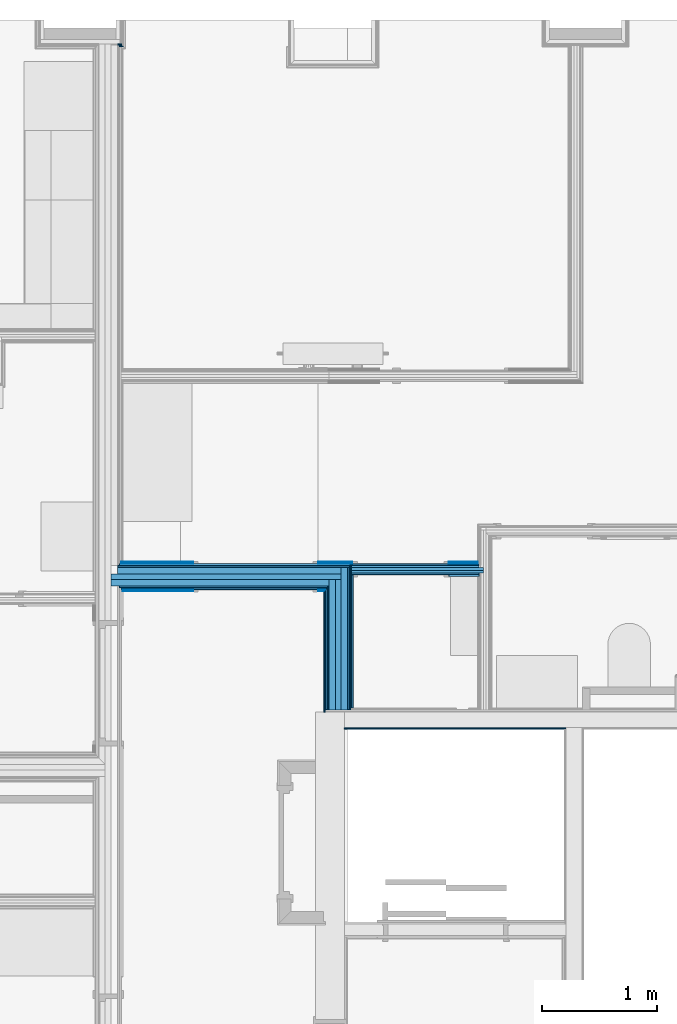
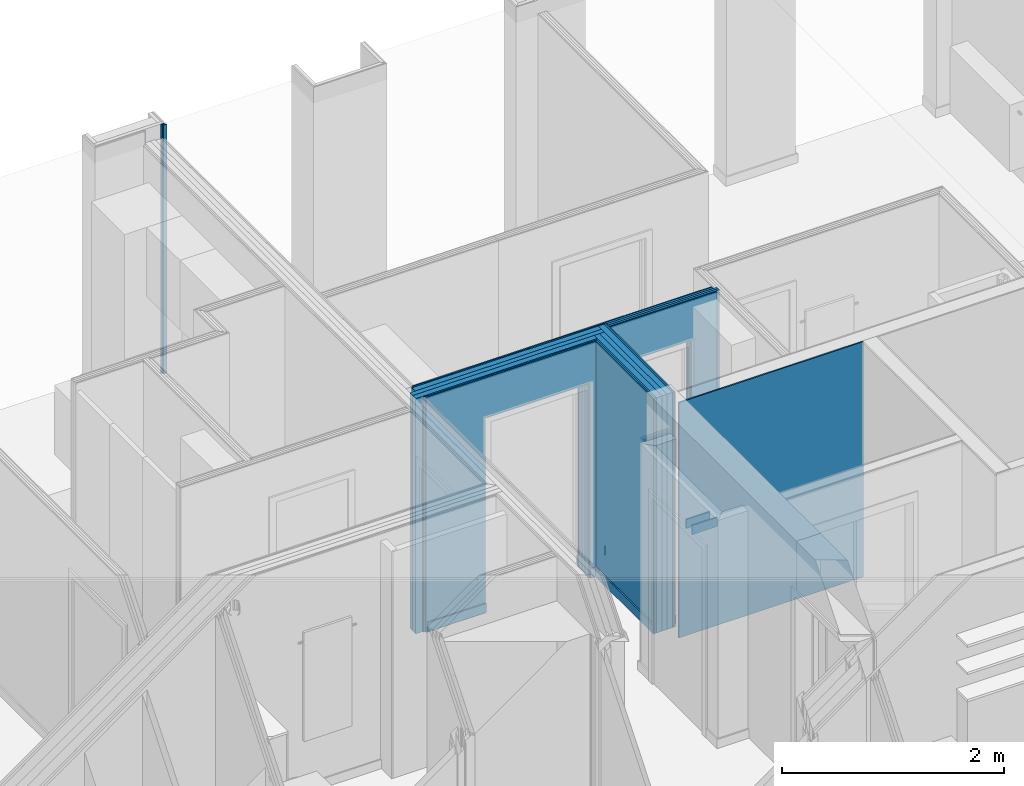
# One storey, part 16 of 82: 28 building element parts, 3 openings, 5 elements without a shape of their own.
"""IFC2X3 building model written with IfcOpenShell, lengths in metres."""

from ifc_helpers import new_model, entity, si_unit, converted_unit, derived_unit, money_unit, direction, frame, frame_2d, origin_with_axes, place, context, subcontext, project, spatial, polyline, rectangle, outline, extrude, material, type_object, element, aggregate, save


model = new_model("IFC2X3")

# Units and contexts
model_context = context("Model", 3, precision=1e-05, world=origin_with_axes(), true_north=direction((0.0, 1.0)))
body_context = subcontext(model_context, "Body", "Model", "MODEL_VIEW", scale=1.0)
ifc_project = project(units=[si_unit("LENGTHUNIT", "METRE"), si_unit("AREAUNIT", "SQUARE_METRE"), si_unit("VOLUMEUNIT", "CUBIC_METRE"), si_unit("ABSORBEDDOSEUNIT", "GRAY"), si_unit("AMOUNTOFSUBSTANCEUNIT", "MOLE"), si_unit("DOSEEQUIVALENTUNIT", "SIEVERT"), si_unit("ELECTRICCAPACITANCEUNIT", "FARAD"), si_unit("ELECTRICCHARGEUNIT", "COULOMB"), si_unit("ELECTRICCONDUCTANCEUNIT", "SIEMENS"), si_unit("ELECTRICCURRENTUNIT", "AMPERE"), si_unit("ELECTRICRESISTANCEUNIT", "OHM"), si_unit("ELECTRICVOLTAGEUNIT", "VOLT"), si_unit("ENERGYUNIT", "JOULE"), si_unit("FORCEUNIT", "NEWTON"), si_unit("FREQUENCYUNIT", "HERTZ"), si_unit("ILLUMINANCEUNIT", "LUX"), si_unit("INDUCTANCEUNIT", "HENRY"), si_unit("LUMINOUSFLUXUNIT", "LUMEN"), si_unit("LUMINOUSINTENSITYUNIT", "CANDELA"), si_unit("MAGNETICFLUXDENSITYUNIT", "TESLA"), si_unit("MAGNETICFLUXUNIT", "WEBER"), si_unit("MASSUNIT", "GRAM"), converted_unit("PLANEANGLEUNIT", "degree", entity("IfcReal", 0.0174532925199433), si_unit("PLANEANGLEUNIT", "RADIAN"), dimensions=[0, 0, 0, 0, 0, 0, 0]), si_unit("POWERUNIT", "WATT"), si_unit("PRESSUREUNIT", "PASCAL"), si_unit("RADIOACTIVITYUNIT", "BECQUEREL"), si_unit("SOLIDANGLEUNIT", "STERADIAN"), si_unit("THERMODYNAMICTEMPERATUREUNIT", "KELVIN"), si_unit("TIMEUNIT", "SECOND"), derived_unit("ACCELERATIONUNIT", [(si_unit("LENGTHUNIT", "METRE"), 1), (si_unit("TIMEUNIT", "SECOND"), -2)]), derived_unit("ANGULARVELOCITYUNIT", [(converted_unit("PLANEANGLEUNIT", "degree", entity("IfcReal", 0.0174532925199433), si_unit("PLANEANGLEUNIT", "RADIAN"), dimensions=[0, 0, 0, 0, 0, 0, 0]), 1), (si_unit("TIMEUNIT", "SECOND"), -1)]), derived_unit("CURVATUREUNIT", [(converted_unit("PLANEANGLEUNIT", "degree", entity("IfcReal", 0.0174532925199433), si_unit("PLANEANGLEUNIT", "RADIAN"), dimensions=[0, 0, 0, 0, 0, 0, 0]), 1), (si_unit("LENGTHUNIT", "METRE"), -1)]), derived_unit("DYNAMICVISCOSITYUNIT", [(si_unit("PRESSUREUNIT", "PASCAL"), 1), (si_unit("TIMEUNIT", "SECOND"), 1)]), derived_unit("HEATFLUXDENSITYUNIT", [(si_unit("POWERUNIT", "WATT"), 1), (si_unit("LENGTHUNIT", "METRE"), -2)]), derived_unit("HEATINGVALUEUNIT", [(si_unit("ENERGYUNIT", "JOULE"), 1), (si_unit("MASSUNIT", "GRAM"), -1)]), derived_unit("INTEGERCOUNTRATEUNIT", [(si_unit("TIMEUNIT", "SECOND"), -1)]), derived_unit("IONCONCENTRATIONUNIT", [(si_unit("MASSUNIT", "GRAM"), 1), (si_unit("VOLUMEUNIT", "CUBIC_METRE"), -1)]), derived_unit("ISOTHERMALMOISTURECAPACITYUNIT", [(si_unit("VOLUMEUNIT", "CUBIC_METRE"), 1), (si_unit("MASSUNIT", "GRAM"), -1)]), derived_unit("KINEMATICVISCOSITYUNIT", [(si_unit("AREAUNIT", "SQUARE_METRE"), 1), (si_unit("TIMEUNIT", "SECOND"), -1)]), derived_unit("LINEARFORCEUNIT", [(si_unit("FORCEUNIT", "NEWTON"), 1), (si_unit("LENGTHUNIT", "METRE"), -1)]), derived_unit("LINEARMOMENTUNIT", [(si_unit("FORCEUNIT", "NEWTON"), 1), (si_unit("LENGTHUNIT", "METRE"), -1)]), derived_unit("LINEARSTIFFNESSUNIT", [(si_unit("FORCEUNIT", "NEWTON"), 1), (si_unit("LENGTHUNIT", "METRE"), -1)]), derived_unit("LINEARVELOCITYUNIT", [(si_unit("LENGTHUNIT", "METRE"), 1), (si_unit("TIMEUNIT", "SECOND"), -1)]), derived_unit("LUMINOUSINTENSITYDISTRIBUTIONUNIT", [(si_unit("LUMINOUSINTENSITYUNIT", "CANDELA"), 1), (si_unit("LUMINOUSFLUXUNIT", "LUMEN"), -1)]), derived_unit("MASSDENSITYUNIT", [(si_unit("MASSUNIT", "GRAM"), 1), (si_unit("VOLUMEUNIT", "CUBIC_METRE"), -1)]), derived_unit("MASSFLOWRATEUNIT", [(si_unit("MASSUNIT", "GRAM"), 1), (si_unit("TIMEUNIT", "SECOND"), -1)]), derived_unit("MASSPERLENGTHUNIT", [(si_unit("MASSUNIT", "GRAM"), 1), (si_unit("LENGTHUNIT", "METRE"), -1)]), derived_unit("MODULUSOFELASTICITYUNIT", [(si_unit("FORCEUNIT", "NEWTON"), 1), (si_unit("AREAUNIT", "SQUARE_METRE"), -1)]), derived_unit("MODULUSOFLINEARSUBGRADEREACTIONUNIT", [(si_unit("FORCEUNIT", "NEWTON"), 1), (si_unit("LENGTHUNIT", "METRE"), -2)]), derived_unit("MODULUSOFROTATIONALSUBGRADEREACTIONUNIT", [(si_unit("FORCEUNIT", "NEWTON"), 1), (si_unit("LENGTHUNIT", "METRE"), 1)]), derived_unit("MODULUSOFSUBGRADEREACTIONUNIT", [(si_unit("FORCEUNIT", "NEWTON"), 1), (si_unit("VOLUMEUNIT", "CUBIC_METRE"), -1)]), derived_unit("MOISTUREDIFFUSIVITYUNIT", [(si_unit("VOLUMEUNIT", "CUBIC_METRE"), 1), (si_unit("TIMEUNIT", "SECOND"), -1)]), derived_unit("MOLECULARWEIGHTUNIT", [(si_unit("MASSUNIT", "GRAM"), 1), (si_unit("AMOUNTOFSUBSTANCEUNIT", "MOLE"), -1)]), derived_unit("PLANARFORCEUNIT", [(si_unit("FORCEUNIT", "NEWTON"), 1), (si_unit("LENGTHUNIT", "METRE"), -2)]), derived_unit("ROTATIONALFREQUENCYUNIT", [(si_unit("TIMEUNIT", "SECOND"), -1)]), derived_unit("ROTATIONALMASSUNIT", [(si_unit("MASSUNIT", "GRAM"), 1), (si_unit("LENGTHUNIT", "METRE"), 2)]), derived_unit("ROTATIONALSTIFFNESSUNIT", [(si_unit("FORCEUNIT", "NEWTON"), 1), (si_unit("LENGTHUNIT", "METRE"), 1), (converted_unit("PLANEANGLEUNIT", "degree", entity("IfcReal", 0.0174532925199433), si_unit("PLANEANGLEUNIT", "RADIAN"), dimensions=[0, 0, 0, 0, 0, 0, 0]), -1)]), derived_unit("SECTIONAREAINTEGRALUNIT", [(si_unit("LENGTHUNIT", "METRE"), 5)]), derived_unit("SECTIONMODULUSUNIT", [(si_unit("LENGTHUNIT", "METRE"), 3)]), derived_unit("SHEARMODULUSUNIT", [(si_unit("FORCEUNIT", "NEWTON"), 1), (si_unit("AREAUNIT", "SQUARE_METRE"), -1)]), derived_unit("SOUNDPOWERUNIT", [(si_unit("ENERGYUNIT", "JOULE"), 1), (si_unit("TIMEUNIT", "SECOND"), -1)]), derived_unit("SPECIFICHEATCAPACITYUNIT", [(si_unit("FORCEUNIT", "NEWTON"), 1), (si_unit("MASSUNIT", "GRAM"), -1), (si_unit("THERMODYNAMICTEMPERATUREUNIT", "KELVIN"), -1)]), derived_unit("TEMPERATUREGRADIENTUNIT", [(si_unit("THERMODYNAMICTEMPERATUREUNIT", "KELVIN"), 1), (si_unit("LENGTHUNIT", "METRE"), -1)]), derived_unit("THERMALADMITTANCEUNIT", [(si_unit("POWERUNIT", "WATT"), 1), (si_unit("AREAUNIT", "SQUARE_METRE"), -1), (si_unit("THERMODYNAMICTEMPERATUREUNIT", "KELVIN"), -1)]), derived_unit("THERMALCONDUCTANCEUNIT", [(si_unit("POWERUNIT", "WATT"), 1), (si_unit("LENGTHUNIT", "METRE"), -1), (si_unit("THERMODYNAMICTEMPERATUREUNIT", "KELVIN"), -1)]), derived_unit("THERMALEXPANSIONCOEFFICIENTUNIT", [(si_unit("THERMODYNAMICTEMPERATUREUNIT", "KELVIN"), -1)]), derived_unit("THERMALRESISTANCEUNIT", [(si_unit("AREAUNIT", "SQUARE_METRE"), 1), (si_unit("POWERUNIT", "WATT"), -1)]), derived_unit("THERMALTRANSMITTANCEUNIT", [(si_unit("POWERUNIT", "WATT"), 1), (si_unit("AREAUNIT", "SQUARE_METRE"), -1), (si_unit("THERMODYNAMICTEMPERATUREUNIT", "KELVIN"), -1)]), derived_unit("TORQUEUNIT", [(si_unit("FORCEUNIT", "NEWTON"), 1), (si_unit("LENGTHUNIT", "METRE"), 1)]), derived_unit("VAPORPERMEABILITYUNIT", [(si_unit("MASSUNIT", "GRAM"), 1), (si_unit("TIMEUNIT", "SECOND"), -1)]), derived_unit("VOLUMETRICFLOWRATEUNIT", [(si_unit("VOLUMEUNIT", "CUBIC_METRE"), 1), (si_unit("TIMEUNIT", "SECOND"), -1)]), derived_unit("WARPINGCONSTANTUNIT", [(si_unit("LENGTHUNIT", "METRE"), 6)]), derived_unit("WARPINGMOMENTUNIT", [(si_unit("FORCEUNIT", "NEWTON"), 1), (si_unit("LENGTHUNIT", "METRE"), 2)]), money_unit("GBP")], contexts=[model_context])

# Site, building, storey
site_placement = place(None, origin_with_axes())
site = spatial("IfcSite", under=ifc_project, at=site_placement, Name="Site", CompositionType="ELEMENT")
building_placement = place(site_placement, origin_with_axes())
building = spatial("IfcBuilding", under=site, at=building_placement, Name="Building01", CompositionType="ELEMENT")
storey_placement = place(building_placement, frame((0.0, 0.0, 12.13), z_axis=(0.0, 0.0, 1.0), x_axis=(1.0, 0.0, 0.0)))
storey = spatial("IfcBuildingStorey", under=building, at=storey_placement, Name="3F", CompositionType="ELEMENT", Elevation=12.13)

# Wall, openings, building element parts
wall_type_1 = type_object("IfcWallType", Name="SHE_A-Walls_Type01c_Partywall_225mm_twin_tall", PredefinedType="NOTDEFINED")
wall_1_placement = place(storey_placement, frame((9.197, 9.949704, 0.0), z_axis=(0.0, 0.0, 1.0), x_axis=(-1.0, 0.0, 0.0)))
wall_1 = element("IfcWall", 1, at=wall_1_placement, inside=storey, type_object=wall_type_1, Name="1C", ObjectType="SHE_A-Walls_Type01c_Partywall_225mm_twin_tall")
opening_1_placement = place(wall_1_placement, frame((-0.931871, -0.153, 0.0), z_axis=(0.0, 0.0, 1.0), x_axis=(1.0, 0.0, 0.0)))
element("IfcOpeningElement", 2, at=opening_1_placement, cuts=wall_1, Name="Opening", ObjectType="Recess", context=body_context, shape_type="SweptSolid", body=[
    extrude(rectangle(XDim=2.142, YDim=0.834, at=frame_2d((-0.417, 1.071), x_axis=(0.0, -1.0))), frame((0.0, 0.0, 0.0), z_axis=(0.0, 1.0, 0.0), x_axis=(-1.0, 0.0, 0.0)), (0.0, 0.0, 1.0), 0.015),
])
opening_2_placement = place(wall_1_placement, frame((0.200331, -0.153, 0.0), z_axis=(0.0, 0.0, 1.0), x_axis=(1.0, 0.0, 0.0)))
element("IfcOpeningElement", 3, at=opening_2_placement, cuts=wall_1, Name="Opening", ObjectType="Opening", context=body_context, shape_type="SweptSolid", body=[
    extrude(rectangle(XDim=1.084, YDim=2.142, at=frame_2d((-0.542, 1.071), x_axis=(-1.0, 0.0))), frame((0.0, 0.0, 0.0), z_axis=(0.0, 1.0, 0.0), x_axis=(-1.0, 0.0, 0.0)), (0.0, 0.0, 1.0), 0.255),
])
ifc_material_1 = material(Name="A_BSUK_Walls_Timber")
placement_1 = place(wall_1_placement, origin_with_axes())
building_element_part_1 = element("IfcBuildingElementPart", 4, at=placement_1, material=ifc_material_1, Name="1", context=body_context, shape_type="SweptSolid", body=[
    extrude(outline(polyline([(1.907331, -0.138), (-0.088, -0.138), (-0.103, -0.153), (1.907331, -0.153), (1.907331, -0.138)])), frame((0.0, 0.0, 0.015), z_axis=(0.0, 0.0, 1.0), x_axis=(1.0, 0.0, 0.0)), (0.0, 0.0, 1.0), 0.1),
])
ifc_material_2 = material(Name="A_BSUK_WallInternal_Finishes_Plasterboard")
building_element_part_2 = element("IfcBuildingElementPart", 5, at=placement_1, material=ifc_material_2, Name="2", context=body_context, shape_type="SweptSolid", body=[
    extrude(rectangle(XDim=2.010331, YDim=0.015, at=frame_2d((0.917166, -0.1305), x_axis=(-1.0, 0.0))), origin_with_axes(), (0.0, 0.0, 1.0), 2.59),
])
building_element_part_3 = element("IfcBuildingElementPart", 6, at=placement_1, material=ifc_material_2, Name="3", context=body_context, shape_type="SweptSolid", body=[
    extrude(rectangle(XDim=2.010331, YDim=0.015, at=frame_2d((0.932166, -0.1155), x_axis=(-1.0, 0.0))), origin_with_axes(), (0.0, 0.0, 1.0), 2.59),
])
ifc_material_3 = material(Name="Air Cavity")
building_element_part_4 = element("IfcBuildingElementPart", 7, at=placement_1, material=ifc_material_3, Name="4", context=body_context, shape_type="SweptSolid", body=[
    extrude(rectangle(XDim=2.010331, YDim=0.058, at=frame_2d((0.932166, -0.079), x_axis=(-1.0, 0.0))), origin_with_axes(), (0.0, 0.0, 1.0), 2.59),
])
ifc_material_4 = material(Name="A_BSUK_Insulation")
building_element_part_5 = element("IfcBuildingElementPart", 8, at=placement_1, material=ifc_material_4, Name="5", context=body_context, shape_type="SweptSolid", body=[
    extrude(rectangle(XDim=1.995331, YDim=0.05, at=frame_2d((0.997666, -0.025), x_axis=(-1.0, 0.0))), origin_with_axes(), (0.0, 0.0, 1.0), 2.59),
])
building_element_part_6 = element("IfcBuildingElementPart", 9, at=placement_1, material=ifc_material_3, Name="6", context=body_context, shape_type="SweptSolid", body=[
    extrude(rectangle(XDim=1.995331, YDim=0.057, at=frame_2d((0.997666, 0.0285), x_axis=(-1.0, 0.0))), origin_with_axes(), (0.0, 0.0, 1.0), 2.59),
])
building_element_part_7 = element("IfcBuildingElementPart", 10, at=placement_1, material=ifc_material_2, Name="7", context=body_context, shape_type="SweptSolid", body=[
    extrude(outline(polyline([(1.922331, 0.072), (0.122, 0.072), (0.107, 0.057), (1.922331, 0.057), (1.922331, 0.072)])), origin_with_axes(), (0.0, 0.0, 1.0), 2.59),
])
building_element_part_8 = element("IfcBuildingElementPart", 11, at=placement_1, material=ifc_material_2, Name="8", context=body_context, shape_type="SweptSolid", body=[
    extrude(outline(polyline([(1.907331, 0.087), (0.137, 0.087), (0.122, 0.072), (1.907331, 0.072), (1.907331, 0.087)])), origin_with_axes(), (0.0, 0.0, 1.0), 2.59),
])
building_element_part_9 = element("IfcBuildingElementPart", 12, at=placement_1, material=ifc_material_1, Name="9", context=body_context, shape_type="SweptSolid", body=[
    extrude(outline(polyline([(1.892331, 0.102), (0.152, 0.102), (0.137, 0.087), (1.892331, 0.087), (1.892331, 0.102)])), frame((0.0, 0.0, 0.015), z_axis=(0.0, 0.0, 1.0), x_axis=(1.0, 0.0, 0.0)), (0.0, 0.0, 1.0), 0.1),
])
aggregate(wall_1, [building_element_part_1, building_element_part_2, building_element_part_3, building_element_part_4, building_element_part_5, building_element_part_6, building_element_part_7, building_element_part_8, building_element_part_9])

# Wall, opening, building element parts
wall_type_2 = type_object("IfcWallType", Name="SHE_A-Walls_Type05a_Partition_95mm_tall", PredefinedType="NOTDEFINED")
wall_2_placement = place(storey_placement, frame((10.428871, 10.052704, 0.0), z_axis=(0.0, 0.0, 1.0), x_axis=(-1.0, 0.0, 0.0)))
wall_2 = element("IfcWall", 13, at=wall_2_placement, inside=storey, type_object=wall_type_2, Name="5A", ObjectType="SHE_A-Walls_Type05a_Partition_95mm_tall")
opening_3_placement = place(wall_2_placement, frame((0.3, -0.05, 0.0), z_axis=(0.0, 0.0, 1.0), x_axis=(1.0, 0.0, 0.0)))
element("IfcOpeningElement", 14, at=opening_3_placement, cuts=wall_2, Name="Opening", ObjectType="Opening", context=body_context, shape_type="SweptSolid", body=[
    extrude(rectangle(XDim=0.834, YDim=2.142, at=frame_2d((-0.417, 1.071), x_axis=(1.0, 0.0))), frame((0.0, 0.0, 0.0), z_axis=(0.0, 1.0, 0.0), x_axis=(-1.0, 0.0, 0.0)), (0.0, 0.0, 1.0), 0.125),
])
placement_2 = place(wall_2_placement, origin_with_axes())
building_element_part_10 = element("IfcBuildingElementPart", 15, at=placement_2, material=ifc_material_1, Name="1", context=body_context, shape_type="SweptSolid", body=[
    extrude(rectangle(XDim=0.015, YDim=1.093871, at=frame_2d((0.596935, -0.0425), x_axis=(0.0, -1.0))), frame((0.0, 0.0, 0.015), z_axis=(0.0, 0.0, 1.0), x_axis=(1.0, 0.0, 0.0)), (0.0, 0.0, 1.0), 0.1),
])
building_element_part_11 = element("IfcBuildingElementPart", 16, at=placement_2, material=ifc_material_2, Name="2", context=body_context, shape_type="SweptSolid", body=[
    extrude(rectangle(XDim=1.108871, YDim=0.012, at=frame_2d((0.589435, -0.029), x_axis=(-1.0, 0.0))), origin_with_axes(), (0.0, 0.0, 1.0), 2.59),
])
building_element_part_12 = element("IfcBuildingElementPart", 17, at=placement_2, material=ifc_material_3, Name="3", context=body_context, shape_type="SweptSolid", body=[
    extrude(rectangle(XDim=1.108871, YDim=0.023, at=frame_2d((0.589435, -0.0115), x_axis=(-1.0, 0.0))), origin_with_axes(), (0.0, 0.0, 1.0), 2.59),
])
building_element_part_13 = element("IfcBuildingElementPart", 18, at=placement_2, material=ifc_material_4, Name="4", context=body_context, shape_type="SweptSolid", body=[
    extrude(rectangle(XDim=1.143871, YDim=0.025, at=frame_2d((0.571935, 0.0125), x_axis=(-1.0, 0.0))), origin_with_axes(), (0.0, 0.0, 1.0), 2.59),
])
building_element_part_14 = element("IfcBuildingElementPart", 19, at=placement_2, material=ifc_material_3, Name="5", context=body_context, shape_type="SweptSolid", body=[
    extrude(rectangle(XDim=1.143871, YDim=0.023, at=frame_2d((0.571935, 0.0365), x_axis=(-1.0, 0.0))), origin_with_axes(), (0.0, 0.0, 1.0), 2.59),
])
building_element_part_15 = element("IfcBuildingElementPart", 20, at=placement_2, material=ifc_material_2, Name="6", context=body_context, shape_type="SweptSolid", body=[
    extrude(rectangle(XDim=1.108871, YDim=0.012, at=frame_2d((0.589435, 0.054), x_axis=(-1.0, 0.0))), origin_with_axes(), (0.0, 0.0, 1.0), 2.59),
])
building_element_part_16 = element("IfcBuildingElementPart", 21, at=placement_2, material=ifc_material_1, Name="7", context=body_context, shape_type="SweptSolid", body=[
    extrude(rectangle(XDim=1.093871, YDim=0.015, at=frame_2d((0.581935, 0.0675), x_axis=(-1.0, 0.0))), frame((0.0, 0.0, 0.015), z_axis=(0.0, 0.0, 1.0), x_axis=(1.0, 0.0, 0.0)), (0.0, 0.0, 1.0), 0.1),
])
aggregate(wall_2, [building_element_part_10, building_element_part_11, building_element_part_12, building_element_part_13, building_element_part_14, building_element_part_15, building_element_part_16])

# Wall, building element part
wall_type_3 = type_object("IfcWallType", Name="SHE_A-Walls_Type03a_BlockworkWall_170mm", PredefinedType="NOTDEFINED")
wall_3_placement = place(storey_placement, frame((17.75, 8.805, 0.0), z_axis=(0.0, 0.0, 1.0), x_axis=(-1.0, 0.0, 0.0)))
wall_3 = element("IfcWall", 22, at=wall_3_placement, inside=storey, type_object=wall_type_3, Name="4B", ObjectType="SHE_A-Walls_Type03a_BlockworkWall_170mm")
ifc_material_5 = material(Name="A_BSUK_WallInternal_Finishes_Plaster")
building_element_part_17_placement = place(wall_3_placement, origin_with_axes())
building_element_part_17 = element("IfcBuildingElementPart", 23, at=building_element_part_17_placement, material=ifc_material_5, Name="10", context=body_context, shape_type="SweptSolid", body=[
    extrude(rectangle(XDim=0.015, YDim=1.92, at=frame_2d((7.565, 0.1475), x_axis=(0.0, -1.0))), origin_with_axes(), (0.0, 0.0, 1.0), 2.59),
])
aggregate(wall_3, [building_element_part_17])

# Wall, building element parts
wall_4_placement = place(storey_placement, frame((9.147, 8.82, 0.0), z_axis=(0.0, 0.0, 1.0), x_axis=(0.0, 1.0, 0.0)))
wall_4 = element("IfcWall", 24, at=wall_4_placement, inside=storey, type_object=wall_type_1, Name="1C", ObjectType="SHE_A-Walls_Type01c_Partywall_225mm_twin_tall")
placement_3 = place(wall_4_placement, origin_with_axes())
building_element_part_18 = element("IfcBuildingElementPart", 25, at=placement_3, material=ifc_material_1, Name="1", context=body_context, shape_type="SweptSolid", body=[
    extrude(rectangle(XDim=1.157704, YDim=0.015, at=frame_2d((0.593852, -0.1455), x_axis=(-1.0, 0.0))), frame((0.0, 0.0, 0.015), z_axis=(0.0, 0.0, 1.0), x_axis=(1.0, 0.0, 0.0)), (0.0, 0.0, 1.0), 0.1),
])
building_element_part_19 = element("IfcBuildingElementPart", 26, at=placement_3, material=ifc_material_2, Name="2", context=body_context, shape_type="SweptSolid", body=[
    extrude(rectangle(XDim=1.252704, YDim=0.015, at=frame_2d((0.626352, -0.1305), x_axis=(-1.0, 0.0))), origin_with_axes(), (0.0, 0.0, 1.0), 2.59),
])
building_element_part_20 = element("IfcBuildingElementPart", 27, at=placement_3, material=ifc_material_2, Name="3", context=body_context, shape_type="SweptSolid", body=[
    extrude(rectangle(XDim=1.237704, YDim=0.015, at=frame_2d((0.618852, -0.1155), x_axis=(-1.0, 0.0))), origin_with_axes(), (0.0, 0.0, 1.0), 2.59),
])
building_element_part_21 = element("IfcBuildingElementPart", 28, at=placement_3, material=ifc_material_3, Name="4", context=body_context, shape_type="SweptSolid", body=[
    extrude(rectangle(XDim=1.237704, YDim=0.058, at=frame_2d((0.618852, -0.079), x_axis=(-1.0, 0.0))), origin_with_axes(), (0.0, 0.0, 1.0), 2.59),
])
building_element_part_22 = element("IfcBuildingElementPart", 29, at=placement_3, material=ifc_material_4, Name="5", context=body_context, shape_type="SweptSolid", body=[
    extrude(rectangle(XDim=1.129704, YDim=0.05, at=frame_2d((0.564852, -0.025), x_axis=(-1.0, 0.0))), origin_with_axes(), (0.0, 0.0, 1.0), 2.59),
])
building_element_part_23 = element("IfcBuildingElementPart", 30, at=placement_3, material=ifc_material_3, Name="6", context=body_context, shape_type="SweptSolid", body=[
    extrude(rectangle(XDim=1.129704, YDim=0.057, at=frame_2d((0.564852, 0.0285), x_axis=(-1.0, 0.0))), origin_with_axes(), (0.0, 0.0, 1.0), 2.59),
])
building_element_part_24 = element("IfcBuildingElementPart", 31, at=placement_3, material=ifc_material_2, Name="7", context=body_context, shape_type="SweptSolid", body=[
    extrude(outline(polyline([(1.057704, 0.072), (0.0, 0.072), (0.0, 0.057), (1.072704, 0.057), (1.057704, 0.072)])), origin_with_axes(), (0.0, 0.0, 1.0), 2.59),
])
building_element_part_25 = element("IfcBuildingElementPart", 32, at=placement_3, material=ifc_material_2, Name="8", context=body_context, shape_type="SweptSolid", body=[
    extrude(outline(polyline([(1.042704, 0.087), (0.0, 0.087), (0.0, 0.072), (1.057704, 0.072), (1.042704, 0.087)])), origin_with_axes(), (0.0, 0.0, 1.0), 2.59),
])
building_element_part_26 = element("IfcBuildingElementPart", 33, at=placement_3, material=ifc_material_1, Name="9", context=body_context, shape_type="SweptSolid", body=[
    extrude(outline(polyline([(1.027704, 0.102), (-0.02, 0.102), (-0.02, 0.087), (1.042704, 0.087), (1.027704, 0.102)])), frame((0.0, 0.0, 0.015), z_axis=(0.0, 0.0, 1.0), x_axis=(1.0, 0.0, 0.0)), (0.0, 0.0, 1.0), 0.1),
])
aggregate(wall_4, [building_element_part_18, building_element_part_19, building_element_part_20, building_element_part_21, building_element_part_22, building_element_part_23, building_element_part_24, building_element_part_25, building_element_part_26])

wall_type_4 = type_object("IfcWallType", Name="SHE_A-Walls_Type06f_ExternalWallInsulation_48+15mm", PredefinedType="NOTDEFINED")
wall_5_placement = place(storey_placement, frame((7.283, 14.63, 0.0), z_axis=(0.0, 0.0, 1.0), x_axis=(-1.0, 0.0, 0.0)))
wall_5 = element("IfcWall", 34, at=wall_5_placement, inside=storey, type_object=wall_type_4, Name="6F", ObjectType="SHE_A-Walls_Type06f_ExternalWallInsulation_48+15mm")
placement_4 = place(wall_5_placement, origin_with_axes())
building_element_part_27 = element("IfcBuildingElementPart", 35, at=placement_4, material=ifc_material_2, Name="2", context=body_context, shape_type="SweptSolid", body=[
    extrude(rectangle(XDim=0.012, YDim=0.035331, at=frame_2d((0.005666, 0.042), x_axis=(0.0, -1.0))), origin_with_axes(), (0.0, 0.0, 1.0), 2.74),
])
building_element_part_28 = element("IfcBuildingElementPart", 36, at=placement_4, material=ifc_material_2, Name="4", context=body_context, shape_type="SweptSolid", body=[
    extrude(outline(polyline([(-0.027, 0.063), (-0.012, 0.048), (0.008331, 0.048), (0.008331, 0.063), (-0.027, 0.063)])), origin_with_axes(), (0.0, 0.0, 1.0), 2.74),
])
aggregate(wall_5, [building_element_part_27, building_element_part_28])

save(model, "model.ifc")
